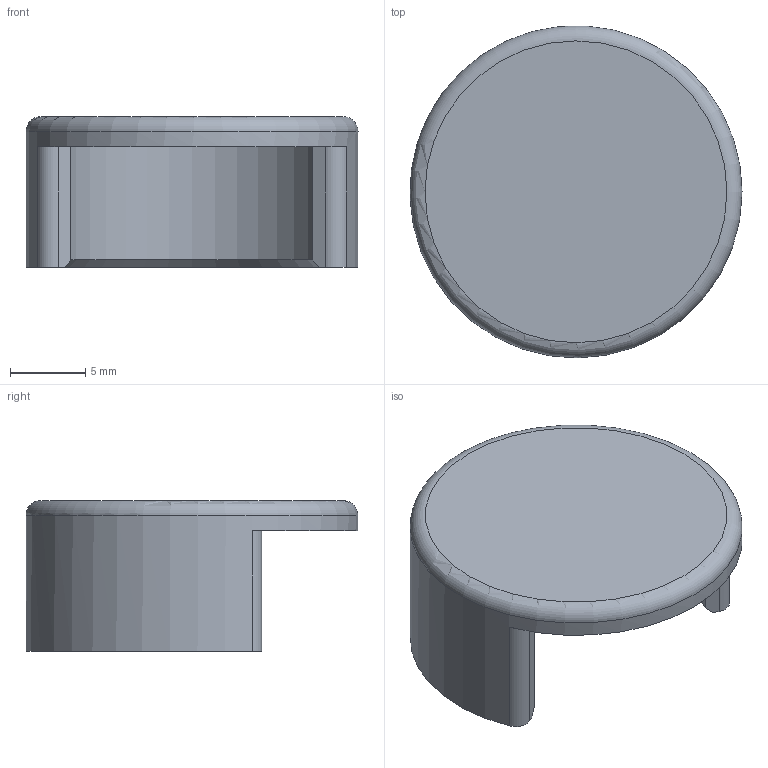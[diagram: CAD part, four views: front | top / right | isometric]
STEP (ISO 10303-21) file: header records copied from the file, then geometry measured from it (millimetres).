
FILE_DESCRIPTION((''),'2;1');
FILE_NAME('C:\Vault Klient\Projekt\Step\300-3075.stp','2009-12-10T07:33:48',('Mathias'),(''),'Autodesk Inventor 2010','Autodesk Inventor 2010','');
FILE_SCHEMA(('CONFIG_CONTROL_DESIGN'));
Length unit declared in the file: millimetre
Products named in the file (1): 300-3075
Bounding box: 21.99 x 21.98 x 10 mm (x, y, z)
Volume: 1390.7 mm3; surface area: 1535.5 mm2
Topology: 1 solids, 1 shells, 11 faces, 26 edges, 17 vertices
Faces by surface type: plane 5, cylinder 4, cone 1, torus 1
Full cylindrical faces by diameter (mm): 22 x1
Entity records: 330 total; most frequent: DIRECTION 58, CARTESIAN_POINT 51, ORIENTED_EDGE 46, AXIS2_PLACEMENT_3D 23, EDGE_CURVE 23, VERTEX_POINT 16, EDGE_LOOP 13, VECTOR 12
